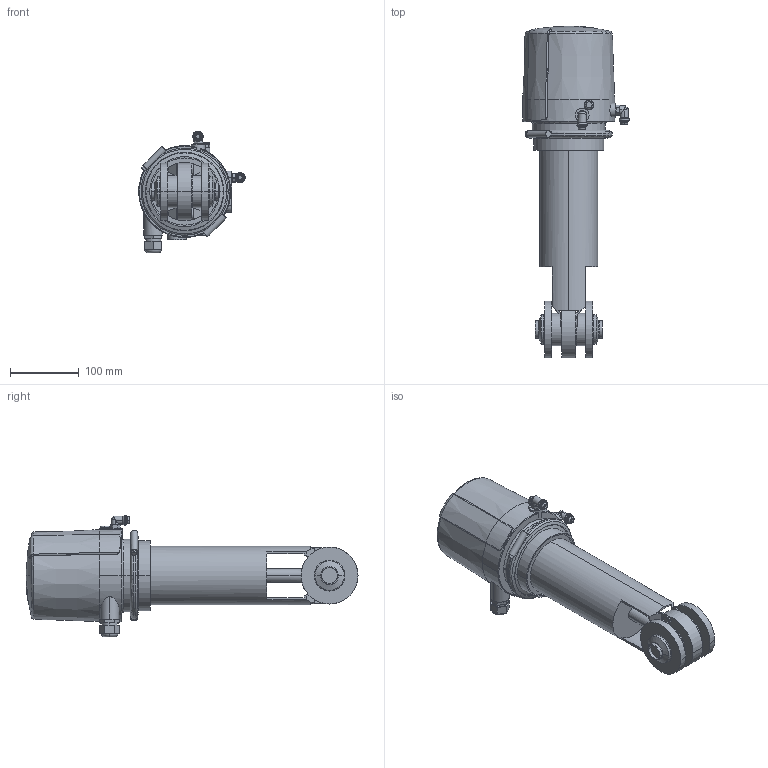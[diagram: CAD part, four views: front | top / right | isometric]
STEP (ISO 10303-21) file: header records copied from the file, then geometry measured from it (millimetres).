
FILE_DESCRIPTION(('Creo Elements/Direct Modeling STEP Export'),'2;1');
FILE_NAME('SVS1F-1Zoll-CU4.stp','2013-05-24T11:25:57',(''),(''),'Creo Elements/Direct Modeling STEP processor for AP214 (Solid Model)','Creo Elements/Direct Modeling 17.0D 15-Jul-2011 (C) Parametric Technology GmbH','');
FILE_SCHEMA(('AUTOMOTIVE_DESIGN { 1 0 10303 214 1 1 1 1 }'));
Length unit declared in the file: millimetre
Products named in the file (4): Luftanschluß; SVS1F-1zoll; CU41-mit-T-Adapter; SVS1F-1zoll-CU41
Assembly tree (3 placements, depth 2):
  SVS1F-1zoll-CU41
    CU41-mit-T-Adapter
    SVS1F-1zoll
    Luftanschluß
Bounding box: 155.4 x 483.94 x 177.6 mm (x, y, z)
Volume: 3391155.3 mm3; surface area: 261112 mm2
Topology: 3 solids, 9 shells, 471 faces, 1163 edges, 735 vertices
Faces by surface type: plane 215, cylinder 149, torus 51, cone 40, bspline 10, sphere 6
Entity records: 21793 total; most frequent: CARTESIAN_POINT 10430, ORIENTED_EDGE 2338, DIRECTION 2067, EDGE_CURVE 1161, AXIS2_PLACEMENT_3D 786, VERTEX_POINT 735, EDGE_LOOP 524, VECTOR 495
